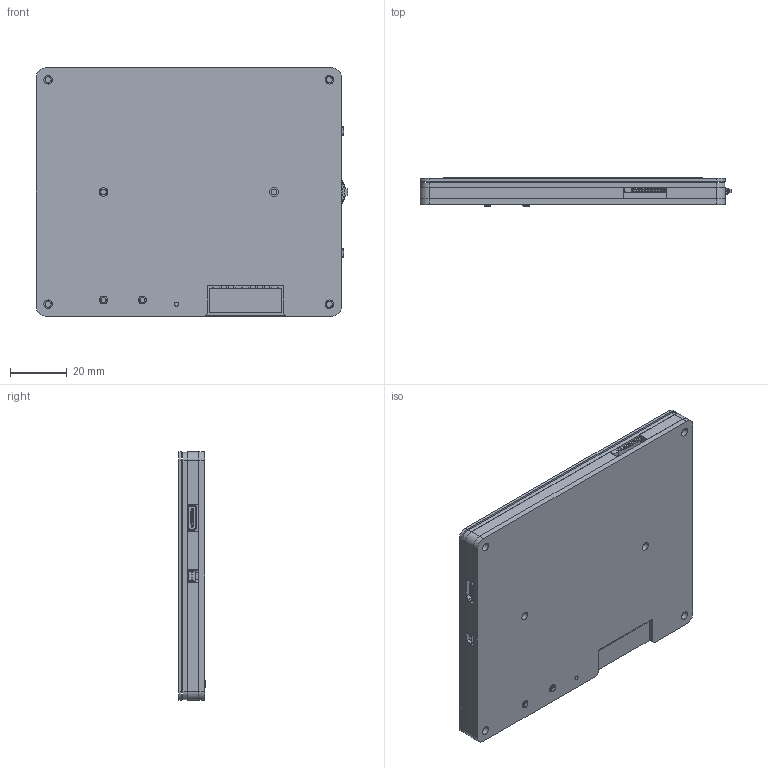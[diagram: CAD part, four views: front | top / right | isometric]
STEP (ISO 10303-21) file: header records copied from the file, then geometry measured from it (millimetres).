
FILE_DESCRIPTION((''),'2;1');
FILE_NAME('00-4_2_VIEW_ASM','2024-11-18T17:12:23',('DNZJ-104'),(''),'CREO PARAMETRIC BY PTC INC, 2022164','CREO PARAMETRIC BY PTC INC, 2022164','');
FILE_SCHEMA(('CONFIG_CONTROL_DESIGN'));
Products named in the file (57): 4_2LCD; 4_2_PCB; 4-2LCD-B; XB-TM-2024A; BREP_61; BREP_62; BREP_63; KEY-579_ASM; TF; BREP_71; NONE-3307; BOSS-EXTRUDE7_4__1_1; BOSS-EXTRUDE7_5__1_1; BOSS-EXTRUDE7_8__1_1; BOSS-EXTRUDE7_3__1_1; BOSS-EXTRUDE7_7__1_1; BOSS-EXTRUDE14_4__1_1; BOSS-EXTRUDE14_2__1_1; BOSS-EXTRUDE14_8__1_1; BOSS-EXTRUDE14_5__1_1; BOSS-EXTRUDE7_6__1_1; CHAMFER9_1_1; CUT-EXTRUDE5_1_1; MIRROR2_1_1; BOSS-EXTRUDE7_1__1_1; BOSS-EXTRUDE14_10__1_1; BOSS-EXTRUDE14_11__1_1; BOSS-EXTRUDE14_9__1_1; BOSS-EXTRUDE14_6__1_1; BOSS-EXTRUDE14_12__1_1; BOSS-EXTRUDE14_3__1_1; BOSS-EXTRUDE14_7__1_1; BOSS-EXTRUDE7_9__1_1; BOSS-EXTRUDE7_2__1_1; NONE_1_1_1; 9899277F-4995-40C0-B099-C6A92_1_ASM; TYPE_C_PORT_SMD_TYPE__ASM_2_1_ASM; BREP_77; BODY1_1_3_1; BODY2_1_1_1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
Assembly tree (64 placements, depth 4):
  00-4_2_VIEW_ASM
    4_2LCD
    4_2_PCB
    4-2LCD-B
    XB-TM-2024A
    KEY-579_ASM  x2
      BREP_61
      BREP_62
      BREP_63
    TF
    BREP_71
    NONE-3307
    TYPE_C_PORT_SMD_TYPE__ASM_2_1_ASM
      9899277F-4995-40C0-B099-C6A92_1_ASM
        BOSS-EXTRUDE7_4__1_1
        BOSS-EXTRUDE7_5__1_1
        BOSS-EXTRUDE7_8__1_1
        BOSS-EXTRUDE7_3__1_1
        BOSS-EXTRUDE7_7__1_1
        BOSS-EXTRUDE14_4__1_1
        BOSS-EXTRUDE14_2__1_1
        BOSS-EXTRUDE14_8__1_1
        BOSS-EXTRUDE14_5__1_1
        BOSS-EXTRUDE7_6__1_1
        CHAMFER9_1_1
        CUT-EXTRUDE5_1_1
        MIRROR2_1_1
        BOSS-EXTRUDE7_1__1_1
        BOSS-EXTRUDE14_10__1_1
        BOSS-EXTRUDE14_11__1_1
        BOSS-EXTRUDE14_9__1_1
        BOSS-EXTRUDE14_6__1_1
        BOSS-EXTRUDE14_12__1_1
        BOSS-EXTRUDE14_3__1_1
        BOSS-EXTRUDE14_7__1_1
        BOSS-EXTRUDE7_9__1_1
        BOSS-EXTRUDE7_2__1_1
        NONE_1_1_1
    BREP_77
    TACT_SWITCH_ASM_2_1_ASM  x2
      BODY1_1_3_1
      BODY2_1_1_1
      BODY3_1_1
      BODY4_1_1
      BODY5_1_1
      BODY6_1_1
      SMT_PIN_2_1_1
      SMT_PIN_4_1_1
      SMT_PIN_1_1_1
      SMT_PIN_3_1_1
    M2_5X3_5  x6
    X05A10H24X  x2
    42-MIDDLE-COVER
    42-BOTTOM-COVER
    42-TOP_COVER
    CHECK-42-0717
    CROWPANEL_ESP32_DISPLAY-4_2_E_I
Bounding box: 109.59 x 9.8 x 87.3 mm (x, y, z)
Volume: 74872.3 mm3; surface area: 97118.6 mm2
Topology: 69 solids, 69 shells, 5732 faces, 16338 edges, 10817 vertices
Faces by surface type: plane 4243, cylinder 1244, torus 129, sphere 54, bspline 28, extrusion 12, revolution 12, cone 10
Entity records: 157405 total; most frequent: CARTESIAN_POINT 30199, ORIENTED_EDGE 27038, DIRECTION 25416, EDGE_CURVE 13519, VECTOR 10960, LINE 10948, VERTEX_POINT 8937, AXIS2_PLACEMENT_3D 7222
